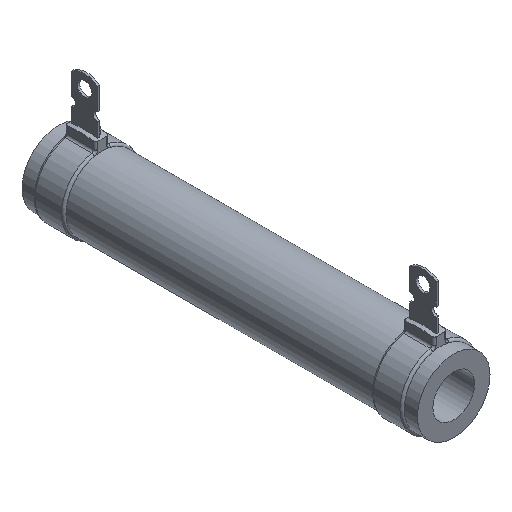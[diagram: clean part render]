
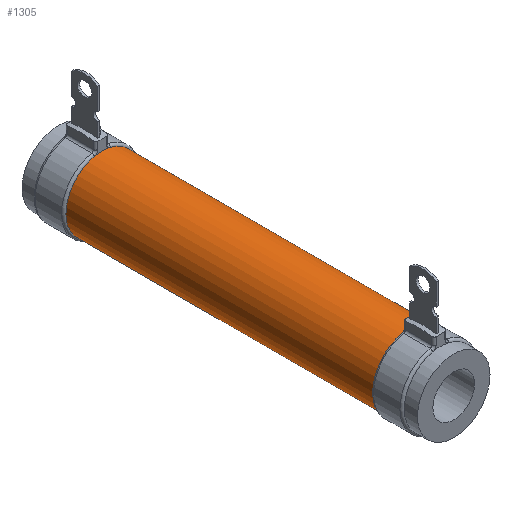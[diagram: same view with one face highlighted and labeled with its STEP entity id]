
A CAD part, isometric view. The second image highlights one B-rep face of the part: STEP entity #1305.
In plain terms, the highlighted cylindrical face has radius 8.25 mm (diameter 16.5 mm), a full revolution.
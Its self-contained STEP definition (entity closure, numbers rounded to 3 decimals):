
#50=CYLINDRICAL_SURFACE($,#1437,8.25);
#71=FACE_BOUND($,#213,.T.);
#129=FACE_OUTER_BOUND($,#212,.T.);
#212=EDGE_LOOP($,(#1016,#1017));
#213=EDGE_LOOP($,(#1018,#1019));
#469=CIRCLE($,#1422,8.25);
#473=CIRCLE($,#1436,8.25);
#474=CIRCLE($,#1438,8.25);
#475=CIRCLE($,#1439,8.25);
#564=VERTEX_POINT($,#2089);
#573=VERTEX_POINT($,#2123);
#580=VERTEX_POINT($,#2182);
#581=VERTEX_POINT($,#2183);
#717=EDGE_CURVE($,#564,#573,#469,.T.);
#733=EDGE_CURVE($,#573,#564,#473,.T.);
#734=EDGE_CURVE($,#580,#581,#474,.T.);
#735=EDGE_CURVE($,#581,#580,#475,.T.);
#1016=ORIENTED_EDGE($,*,*,#734,.T.);
#1017=ORIENTED_EDGE($,*,*,#735,.T.);
#1018=ORIENTED_EDGE($,*,*,#717,.T.);
#1019=ORIENTED_EDGE($,*,*,#733,.T.);
#1305=ADVANCED_FACE($,(#129,#71),#50,.T.);
#1422=AXIS2_PLACEMENT_3D($,#2132,#1720,#1721);
#1436=AXIS2_PLACEMENT_3D($,#2180,#1758,#1759);
#1437=AXIS2_PLACEMENT_3D($,#2181,#1760,#1761);
#1438=AXIS2_PLACEMENT_3D($,#2184,#1762,#1763);
#1439=AXIS2_PLACEMENT_3D($,#2185,#1764,#1765);
#1720=DIRECTION('center_axis',(0.,-1.,0.));
#1721=DIRECTION('ref_axis',(-1.,0.,0.));
#1758=DIRECTION('center_axis',(0.,-1.,0.));
#1759=DIRECTION('ref_axis',(-1.,0.,0.));
#1760=DIRECTION('center_axis',(0.,-1.,0.));
#1761=DIRECTION('ref_axis',(-1.,0.,0.));
#1762=DIRECTION('center_axis',(0.,1.,0.));
#1763=DIRECTION('ref_axis',(-1.,0.,0.));
#1764=DIRECTION('center_axis',(0.,1.,0.));
#1765=DIRECTION('ref_axis',(-1.,0.,0.));
#2089=CARTESIAN_POINT('',(-1.784,80.,8.055));
#2123=CARTESIAN_POINT('',(1.784,80.,8.055));
#2132=CARTESIAN_POINT('Origin',(0.,80.,0.));
#2180=CARTESIAN_POINT('Origin',(0.,80.,0.));
#2181=CARTESIAN_POINT('Origin',(0.,45.,0.));
#2182=CARTESIAN_POINT('',(1.784,10.,8.055));
#2183=CARTESIAN_POINT('',(-1.784,10.,8.055));
#2184=CARTESIAN_POINT('Origin',(0.,10.,0.));
#2185=CARTESIAN_POINT('Origin',(0.,10.,0.));
